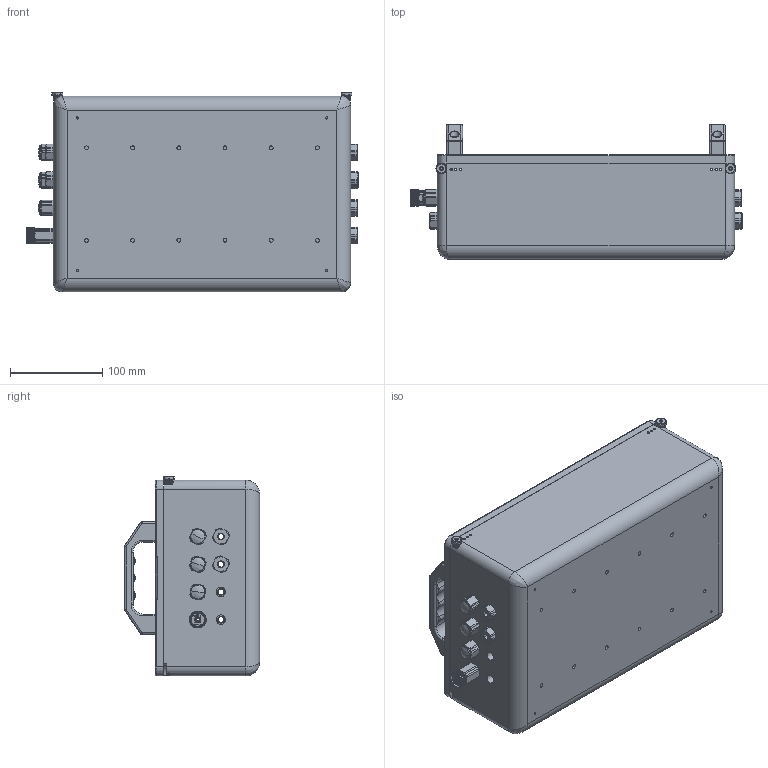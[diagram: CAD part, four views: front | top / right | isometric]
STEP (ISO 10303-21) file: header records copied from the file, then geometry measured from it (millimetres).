
FILE_DESCRIPTION (( 'STEP AP214' ), '1' );
FILE_NAME ('transmitter.STEP', '2025-12-05T00:17:58', ( '' ), ( '' ), 'SwSTEP 2.0', 'SolidWorks 2024', '' );
FILE_SCHEMA (( 'AUTOMOTIVE_DESIGN' ));
Length unit declared in the file: millimetre
Products named in the file (1): transmitter
Bounding box: 359.5 x 146.59 x 216.5 mm (x, y, z)
Surface area: 290408 mm2 (no closed solid volume)
Topology: 0 solids, 42 shells, 1064 faces, 3267 edges, 2179 vertices
Faces by surface type: cylinder 460, plane 302, cone 148, bspline 77, torus 55, sphere 22
Entity records: 53494 total; most frequent: CARTESIAN_POINT 14866, ORIENTED_EDGE 5453, DIRECTION 5353, EDGE_CURVE 3235, VERTEX_POINT 2179, AXIS2_PLACEMENT_3D 2119, EDGE_LOOP 1146, CIRCLE 1131
